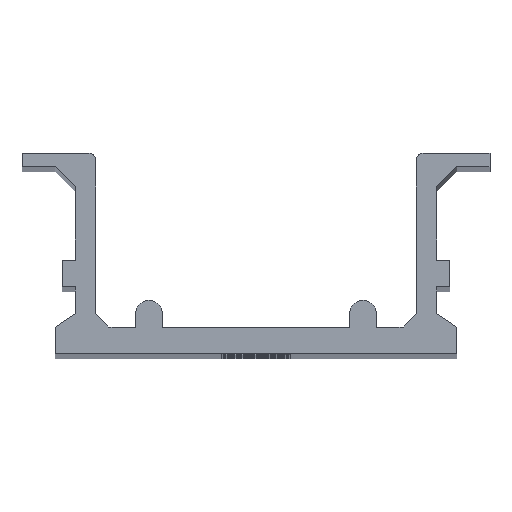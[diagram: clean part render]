
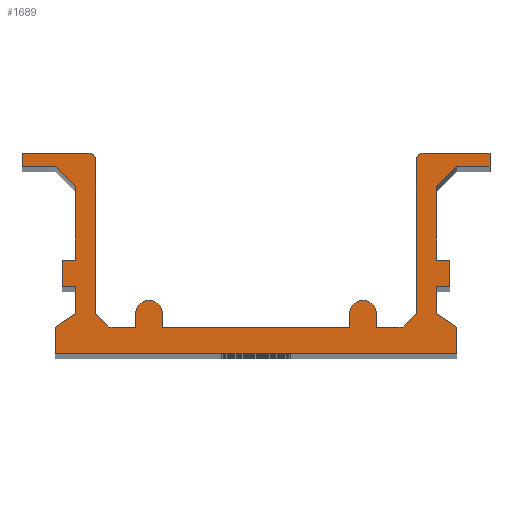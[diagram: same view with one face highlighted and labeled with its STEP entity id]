
A CAD part, top view. The second image highlights one B-rep face of the part: STEP entity #1689.
In plain terms, the highlighted planar face has unit normal (0, 0, 1).
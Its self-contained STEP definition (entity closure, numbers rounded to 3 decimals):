
#73=CIRCLE('',#1833,0.5);
#74=CIRCLE('',#1834,0.5);
#75=CIRCLE('',#1835,1.);
#76=CIRCLE('',#1836,1.);
#151=FACE_OUTER_BOUND('',#235,.T.);
#235=EDGE_LOOP('',(#1247,#1248,#1249,#1250,#1251,#1252,#1253,#1254,#1255,
#1256,#1257,#1258,#1259,#1260,#1261,#1262,#1263,#1264,#1265,#1266,#1267,
#1268,#1269,#1270,#1271,#1272,#1273,#1274,#1275,#1276,#1277,#1278,#1279,
#1280,#1281,#1282,#1283,#1284));
#377=LINE('',#2584,#571);
#378=LINE('',#2586,#572);
#379=LINE('',#2588,#573);
#380=LINE('',#2592,#574);
#381=LINE('',#2594,#575);
#382=LINE('',#2596,#576);
#383=LINE('',#2598,#577);
#384=LINE('',#2600,#578);
#385=LINE('',#2602,#579);
#386=LINE('',#2604,#580);
#387=LINE('',#2606,#581);
#388=LINE('',#2608,#582);
#389=LINE('',#2610,#583);
#390=LINE('',#2612,#584);
#391=LINE('',#2614,#585);
#392=LINE('',#2616,#586);
#393=LINE('',#2618,#587);
#394=LINE('',#2620,#588);
#395=LINE('',#2622,#589);
#396=LINE('',#2624,#590);
#397=LINE('',#2626,#591);
#398=LINE('',#2628,#592);
#399=LINE('',#2630,#593);
#400=LINE('',#2632,#594);
#401=LINE('',#2634,#595);
#402=LINE('',#2636,#596);
#403=LINE('',#2640,#597);
#404=LINE('',#2642,#598);
#405=LINE('',#2644,#599);
#406=LINE('',#2646,#600);
#407=LINE('',#2650,#601);
#408=LINE('',#2652,#602);
#409=LINE('',#2654,#603);
#410=LINE('',#2657,#604);
#571=VECTOR('',#2116,10.);
#572=VECTOR('',#2117,10.);
#573=VECTOR('',#2118,10.);
#574=VECTOR('',#2121,10.);
#575=VECTOR('',#2122,10.);
#576=VECTOR('',#2123,10.);
#577=VECTOR('',#2124,10.);
#578=VECTOR('',#2125,10.);
#579=VECTOR('',#2126,10.);
#580=VECTOR('',#2127,10.);
#581=VECTOR('',#2128,10.);
#582=VECTOR('',#2129,10.);
#583=VECTOR('',#2130,10.);
#584=VECTOR('',#2131,10.);
#585=VECTOR('',#2132,10.);
#586=VECTOR('',#2133,10.);
#587=VECTOR('',#2134,10.);
#588=VECTOR('',#2135,10.);
#589=VECTOR('',#2136,10.);
#590=VECTOR('',#2137,10.);
#591=VECTOR('',#2138,10.);
#592=VECTOR('',#2139,10.);
#593=VECTOR('',#2140,10.);
#594=VECTOR('',#2141,10.);
#595=VECTOR('',#2142,10.);
#596=VECTOR('',#2143,10.);
#597=VECTOR('',#2146,10.);
#598=VECTOR('',#2147,10.);
#599=VECTOR('',#2148,10.);
#600=VECTOR('',#2149,10.);
#601=VECTOR('',#2152,10.);
#602=VECTOR('',#2153,10.);
#603=VECTOR('',#2154,10.);
#604=VECTOR('',#2157,10.);
#765=VERTEX_POINT('',#2582);
#766=VERTEX_POINT('',#2583);
#767=VERTEX_POINT('',#2585);
#768=VERTEX_POINT('',#2587);
#769=VERTEX_POINT('',#2589);
#770=VERTEX_POINT('',#2591);
#771=VERTEX_POINT('',#2593);
#772=VERTEX_POINT('',#2595);
#773=VERTEX_POINT('',#2597);
#774=VERTEX_POINT('',#2599);
#775=VERTEX_POINT('',#2601);
#776=VERTEX_POINT('',#2603);
#777=VERTEX_POINT('',#2605);
#778=VERTEX_POINT('',#2607);
#779=VERTEX_POINT('',#2609);
#780=VERTEX_POINT('',#2611);
#781=VERTEX_POINT('',#2613);
#782=VERTEX_POINT('',#2615);
#783=VERTEX_POINT('',#2617);
#784=VERTEX_POINT('',#2619);
#785=VERTEX_POINT('',#2621);
#786=VERTEX_POINT('',#2623);
#787=VERTEX_POINT('',#2625);
#788=VERTEX_POINT('',#2627);
#789=VERTEX_POINT('',#2629);
#790=VERTEX_POINT('',#2631);
#791=VERTEX_POINT('',#2633);
#792=VERTEX_POINT('',#2635);
#793=VERTEX_POINT('',#2637);
#794=VERTEX_POINT('',#2639);
#795=VERTEX_POINT('',#2641);
#796=VERTEX_POINT('',#2643);
#797=VERTEX_POINT('',#2645);
#798=VERTEX_POINT('',#2647);
#799=VERTEX_POINT('',#2649);
#800=VERTEX_POINT('',#2651);
#801=VERTEX_POINT('',#2653);
#802=VERTEX_POINT('',#2655);
#965=EDGE_CURVE('',#765,#766,#377,.T.);
#966=EDGE_CURVE('',#766,#767,#378,.T.);
#967=EDGE_CURVE('',#767,#768,#379,.T.);
#968=EDGE_CURVE('',#768,#769,#73,.T.);
#969=EDGE_CURVE('',#769,#770,#380,.T.);
#970=EDGE_CURVE('',#770,#771,#381,.T.);
#971=EDGE_CURVE('',#771,#772,#382,.T.);
#972=EDGE_CURVE('',#772,#773,#383,.T.);
#973=EDGE_CURVE('',#773,#774,#384,.T.);
#974=EDGE_CURVE('',#774,#775,#385,.T.);
#975=EDGE_CURVE('',#775,#776,#386,.T.);
#976=EDGE_CURVE('',#776,#777,#387,.T.);
#977=EDGE_CURVE('',#777,#778,#388,.T.);
#978=EDGE_CURVE('',#778,#779,#389,.T.);
#979=EDGE_CURVE('',#779,#780,#390,.T.);
#980=EDGE_CURVE('',#780,#781,#391,.T.);
#981=EDGE_CURVE('',#781,#782,#392,.T.);
#982=EDGE_CURVE('',#782,#783,#393,.T.);
#983=EDGE_CURVE('',#783,#784,#394,.T.);
#984=EDGE_CURVE('',#784,#785,#395,.T.);
#985=EDGE_CURVE('',#785,#786,#396,.T.);
#986=EDGE_CURVE('',#786,#787,#397,.T.);
#987=EDGE_CURVE('',#787,#788,#398,.T.);
#988=EDGE_CURVE('',#788,#789,#399,.T.);
#989=EDGE_CURVE('',#789,#790,#400,.T.);
#990=EDGE_CURVE('',#790,#791,#401,.T.);
#991=EDGE_CURVE('',#791,#792,#402,.T.);
#992=EDGE_CURVE('',#792,#793,#74,.T.);
#993=EDGE_CURVE('',#793,#794,#403,.T.);
#994=EDGE_CURVE('',#794,#795,#404,.T.);
#995=EDGE_CURVE('',#795,#796,#405,.T.);
#996=EDGE_CURVE('',#796,#797,#406,.T.);
#997=EDGE_CURVE('',#797,#798,#75,.T.);
#998=EDGE_CURVE('',#798,#799,#407,.T.);
#999=EDGE_CURVE('',#799,#800,#408,.T.);
#1000=EDGE_CURVE('',#800,#801,#409,.T.);
#1001=EDGE_CURVE('',#801,#802,#76,.T.);
#1002=EDGE_CURVE('',#802,#765,#410,.T.);
#1247=ORIENTED_EDGE('',*,*,#965,.T.);
#1248=ORIENTED_EDGE('',*,*,#966,.T.);
#1249=ORIENTED_EDGE('',*,*,#967,.T.);
#1250=ORIENTED_EDGE('',*,*,#968,.T.);
#1251=ORIENTED_EDGE('',*,*,#969,.T.);
#1252=ORIENTED_EDGE('',*,*,#970,.T.);
#1253=ORIENTED_EDGE('',*,*,#971,.T.);
#1254=ORIENTED_EDGE('',*,*,#972,.T.);
#1255=ORIENTED_EDGE('',*,*,#973,.T.);
#1256=ORIENTED_EDGE('',*,*,#974,.T.);
#1257=ORIENTED_EDGE('',*,*,#975,.T.);
#1258=ORIENTED_EDGE('',*,*,#976,.T.);
#1259=ORIENTED_EDGE('',*,*,#977,.T.);
#1260=ORIENTED_EDGE('',*,*,#978,.T.);
#1261=ORIENTED_EDGE('',*,*,#979,.T.);
#1262=ORIENTED_EDGE('',*,*,#980,.T.);
#1263=ORIENTED_EDGE('',*,*,#981,.T.);
#1264=ORIENTED_EDGE('',*,*,#982,.T.);
#1265=ORIENTED_EDGE('',*,*,#983,.T.);
#1266=ORIENTED_EDGE('',*,*,#984,.T.);
#1267=ORIENTED_EDGE('',*,*,#985,.T.);
#1268=ORIENTED_EDGE('',*,*,#986,.T.);
#1269=ORIENTED_EDGE('',*,*,#987,.T.);
#1270=ORIENTED_EDGE('',*,*,#988,.T.);
#1271=ORIENTED_EDGE('',*,*,#989,.T.);
#1272=ORIENTED_EDGE('',*,*,#990,.T.);
#1273=ORIENTED_EDGE('',*,*,#991,.T.);
#1274=ORIENTED_EDGE('',*,*,#992,.T.);
#1275=ORIENTED_EDGE('',*,*,#993,.T.);
#1276=ORIENTED_EDGE('',*,*,#994,.T.);
#1277=ORIENTED_EDGE('',*,*,#995,.T.);
#1278=ORIENTED_EDGE('',*,*,#996,.T.);
#1279=ORIENTED_EDGE('',*,*,#997,.T.);
#1280=ORIENTED_EDGE('',*,*,#998,.T.);
#1281=ORIENTED_EDGE('',*,*,#999,.T.);
#1282=ORIENTED_EDGE('',*,*,#1000,.T.);
#1283=ORIENTED_EDGE('',*,*,#1001,.T.);
#1284=ORIENTED_EDGE('',*,*,#1002,.T.);
#1613=PLANE('',#1832);
#1689=ADVANCED_FACE('',(#151),#1613,.T.);
#1832=AXIS2_PLACEMENT_3D('',#2581,#2114,#2115);
#1833=AXIS2_PLACEMENT_3D('',#2590,#2119,#2120);
#1834=AXIS2_PLACEMENT_3D('',#2638,#2144,#2145);
#1835=AXIS2_PLACEMENT_3D('',#2648,#2150,#2151);
#1836=AXIS2_PLACEMENT_3D('',#2656,#2155,#2156);
#2114=DIRECTION('center_axis',(0.,0.,1.));
#2115=DIRECTION('ref_axis',(1.,0.,0.));
#2116=DIRECTION('',(-1.,0.,0.));
#2117=DIRECTION('',(-0.707,0.707,0.));
#2118=DIRECTION('',(0.,1.,0.));
#2119=DIRECTION('center_axis',(0.,0.,1.));
#2120=DIRECTION('ref_axis',(1.,0.,0.));
#2121=DIRECTION('',(-1.,0.,0.));
#2122=DIRECTION('',(0.,-1.,0.));
#2123=DIRECTION('',(1.,0.,0.));
#2124=DIRECTION('',(0.707,-0.707,0.));
#2125=DIRECTION('',(0.,-1.,0.));
#2126=DIRECTION('',(-1.,0.,0.));
#2127=DIRECTION('',(0.,-1.,0.));
#2128=DIRECTION('',(1.,0.,0.));
#2129=DIRECTION('',(0.,-1.,0.));
#2130=DIRECTION('',(-0.832,-0.555,0.));
#2131=DIRECTION('',(0.,-1.,0.));
#2132=DIRECTION('',(1.,0.,0.));
#2133=DIRECTION('',(0.,1.,0.));
#2134=DIRECTION('',(-0.832,0.555,0.));
#2135=DIRECTION('',(0.,1.,0.));
#2136=DIRECTION('',(1.,0.,0.));
#2137=DIRECTION('',(0.,1.,0.));
#2138=DIRECTION('',(-1.,0.,0.));
#2139=DIRECTION('',(0.,1.,0.));
#2140=DIRECTION('',(0.707,0.707,0.));
#2141=DIRECTION('',(1.,0.,0.));
#2142=DIRECTION('',(0.,1.,0.));
#2143=DIRECTION('',(-1.,0.,0.));
#2144=DIRECTION('center_axis',(0.,0.,1.));
#2145=DIRECTION('ref_axis',(0.,1.,0.));
#2146=DIRECTION('',(0.,-1.,0.));
#2147=DIRECTION('',(-0.707,-0.707,0.));
#2148=DIRECTION('',(-1.,0.,0.));
#2149=DIRECTION('',(0.,1.,0.));
#2150=DIRECTION('center_axis',(0.,0.,1.));
#2151=DIRECTION('ref_axis',(1.,0.,0.));
#2152=DIRECTION('',(0.,-1.,0.));
#2153=DIRECTION('',(-1.,0.,0.));
#2154=DIRECTION('',(0.,1.,0.));
#2155=DIRECTION('center_axis',(0.,0.,1.));
#2156=DIRECTION('ref_axis',(1.,0.,0.));
#2157=DIRECTION('',(0.,-1.,0.));
#2581=CARTESIAN_POINT('Origin',(0.,7.5,217.));
#2582=CARTESIAN_POINT('',(-9.,2.,217.));
#2583=CARTESIAN_POINT('',(-11.,2.,217.));
#2584=CARTESIAN_POINT('',(-9.,2.,217.));
#2585=CARTESIAN_POINT('',(-12.,3.,217.));
#2586=CARTESIAN_POINT('',(-11.,2.,217.));
#2587=CARTESIAN_POINT('',(-12.,14.5,217.));
#2588=CARTESIAN_POINT('',(-12.,3.,217.));
#2589=CARTESIAN_POINT('',(-12.5,15.,217.));
#2590=CARTESIAN_POINT('Origin',(-12.5,14.5,217.));
#2591=CARTESIAN_POINT('',(-17.5,15.,217.));
#2592=CARTESIAN_POINT('',(-12.5,15.,217.));
#2593=CARTESIAN_POINT('',(-17.5,14.,217.));
#2594=CARTESIAN_POINT('',(-17.5,15.,217.));
#2595=CARTESIAN_POINT('',(-15.,14.,217.));
#2596=CARTESIAN_POINT('',(-17.5,14.,217.));
#2597=CARTESIAN_POINT('',(-13.5,12.5,217.));
#2598=CARTESIAN_POINT('',(-15.,14.,217.));
#2599=CARTESIAN_POINT('',(-13.5,7.,217.));
#2600=CARTESIAN_POINT('',(-13.5,12.5,217.));
#2601=CARTESIAN_POINT('',(-14.5,7.,217.));
#2602=CARTESIAN_POINT('',(-13.5,7.,217.));
#2603=CARTESIAN_POINT('',(-14.5,5.,217.));
#2604=CARTESIAN_POINT('',(-14.5,7.,217.));
#2605=CARTESIAN_POINT('',(-13.5,5.,217.));
#2606=CARTESIAN_POINT('',(-14.5,5.,217.));
#2607=CARTESIAN_POINT('',(-13.5,3.,217.));
#2608=CARTESIAN_POINT('',(-13.5,5.,217.));
#2609=CARTESIAN_POINT('',(-15.,2.,217.));
#2610=CARTESIAN_POINT('',(-13.5,3.,217.));
#2611=CARTESIAN_POINT('',(-15.,0.,217.));
#2612=CARTESIAN_POINT('',(-15.,2.,217.));
#2613=CARTESIAN_POINT('',(15.,0.,217.));
#2614=CARTESIAN_POINT('',(-15.,0.,217.));
#2615=CARTESIAN_POINT('',(15.,2.,217.));
#2616=CARTESIAN_POINT('',(15.,0.,217.));
#2617=CARTESIAN_POINT('',(13.5,3.,217.));
#2618=CARTESIAN_POINT('',(15.,2.,217.));
#2619=CARTESIAN_POINT('',(13.5,5.,217.));
#2620=CARTESIAN_POINT('',(13.5,3.,217.));
#2621=CARTESIAN_POINT('',(14.5,5.,217.));
#2622=CARTESIAN_POINT('',(13.5,5.,217.));
#2623=CARTESIAN_POINT('',(14.5,7.,217.));
#2624=CARTESIAN_POINT('',(14.5,5.,217.));
#2625=CARTESIAN_POINT('',(13.5,7.,217.));
#2626=CARTESIAN_POINT('',(14.5,7.,217.));
#2627=CARTESIAN_POINT('',(13.5,12.5,217.));
#2628=CARTESIAN_POINT('',(13.5,7.,217.));
#2629=CARTESIAN_POINT('',(15.,14.,217.));
#2630=CARTESIAN_POINT('',(13.5,12.5,217.));
#2631=CARTESIAN_POINT('',(17.5,14.,217.));
#2632=CARTESIAN_POINT('',(15.,14.,217.));
#2633=CARTESIAN_POINT('',(17.5,15.,217.));
#2634=CARTESIAN_POINT('',(17.5,14.,217.));
#2635=CARTESIAN_POINT('',(12.5,15.,217.));
#2636=CARTESIAN_POINT('',(17.5,15.,217.));
#2637=CARTESIAN_POINT('',(12.,14.5,217.));
#2638=CARTESIAN_POINT('Origin',(12.5,14.5,217.));
#2639=CARTESIAN_POINT('',(12.,3.,217.));
#2640=CARTESIAN_POINT('',(12.,14.5,217.));
#2641=CARTESIAN_POINT('',(11.,2.,217.));
#2642=CARTESIAN_POINT('',(12.,3.,217.));
#2643=CARTESIAN_POINT('',(9.,2.,217.));
#2644=CARTESIAN_POINT('',(11.,2.,217.));
#2645=CARTESIAN_POINT('',(9.,3.,217.));
#2646=CARTESIAN_POINT('',(9.,2.,217.));
#2647=CARTESIAN_POINT('',(7.,3.,217.));
#2648=CARTESIAN_POINT('Origin',(8.,3.,217.));
#2649=CARTESIAN_POINT('',(7.,2.,217.));
#2650=CARTESIAN_POINT('',(7.,3.,217.));
#2651=CARTESIAN_POINT('',(-7.,2.,217.));
#2652=CARTESIAN_POINT('',(7.,2.,217.));
#2653=CARTESIAN_POINT('',(-7.,3.,217.));
#2654=CARTESIAN_POINT('',(-7.,2.,217.));
#2655=CARTESIAN_POINT('',(-9.,3.,217.));
#2656=CARTESIAN_POINT('Origin',(-8.,3.,217.));
#2657=CARTESIAN_POINT('',(-9.,3.,217.));
